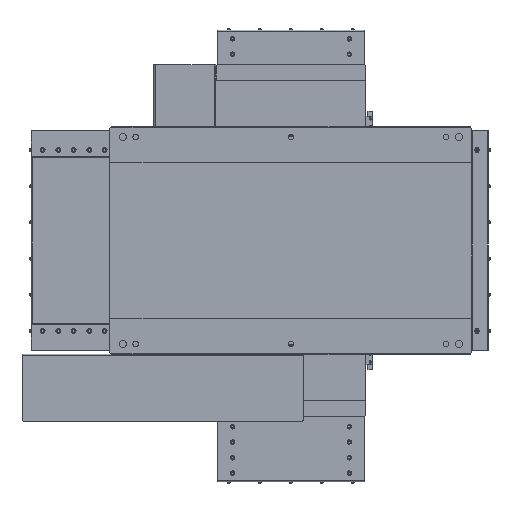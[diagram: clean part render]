
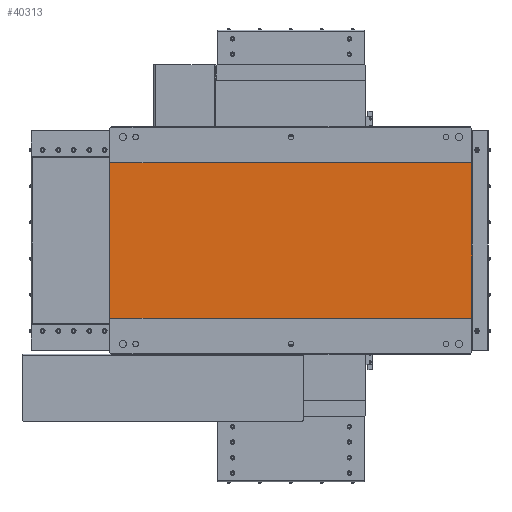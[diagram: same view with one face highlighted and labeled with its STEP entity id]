
A CAD part, front view. The second image highlights one B-rep face of the part: STEP entity #40313.
In plain terms, the highlighted planar face has unit normal (0, -1, 0).
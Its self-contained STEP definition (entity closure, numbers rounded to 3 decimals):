
#3547 = EDGE_CURVE ( 'NONE', #24531, #65417, #4279, .T. ) ;
#4279 = LINE ( 'NONE', #29743, #43019 ) ;
#4642 = DIRECTION ( 'NONE',  ( 0., 0., 1. ) ) ;
#7526 = VECTOR ( 'NONE', #85087, 1000. ) ;
#8333 = VECTOR ( 'NONE', #26584, 1000. ) ;
#15492 = FACE_OUTER_BOUND ( 'NONE', #39373, .T. ) ;
#16662 = CARTESIAN_POINT ( 'NONE',  ( 350., 1., -150. ) ) ;
#19337 = EDGE_CURVE ( 'NONE', #58980, #34804, #37764, .T. ) ;
#19705 = CARTESIAN_POINT ( 'NONE',  ( -350., 1., 150. ) ) ;
#24531 = VERTEX_POINT ( 'NONE', #76028 ) ;
#26584 = DIRECTION ( 'NONE',  ( 0., 0., 1. ) ) ;
#29743 = CARTESIAN_POINT ( 'NONE',  ( -350., 1., -150. ) ) ;
#33223 = DIRECTION ( 'NONE',  ( 0., 1., 0. ) ) ;
#34804 = VERTEX_POINT ( 'NONE', #57719 ) ;
#35175 = CARTESIAN_POINT ( 'NONE',  ( -350., 1., -150. ) ) ;
#37764 = LINE ( 'NONE', #16662, #8333 ) ;
#37872 = DIRECTION ( 'NONE',  ( 1., 0., 0. ) ) ;
#39373 = EDGE_LOOP ( 'NONE', ( #89295, #45250, #76066, #46171 ) ) ;
#39748 = DIRECTION ( 'NONE',  ( 0., 0., 1. ) ) ;
#40313 = ADVANCED_FACE ( 'NONE', ( #15492 ), #122268, .F. ) ;
#43019 = VECTOR ( 'NONE', #39748, 1000. ) ;
#45250 = ORIENTED_EDGE ( 'NONE', *, *, #75373, .F. ) ;
#46171 = ORIENTED_EDGE ( 'NONE', *, *, #77017, .T. ) ;
#50391 = LINE ( 'NONE', #67002, #79937 ) ;
#57719 = CARTESIAN_POINT ( 'NONE',  ( 350., 1., 150. ) ) ;
#58980 = VERTEX_POINT ( 'NONE', #108116 ) ;
#62843 = CARTESIAN_POINT ( 'NONE',  ( -350., 1., -150. ) ) ;
#65417 = VERTEX_POINT ( 'NONE', #19705 ) ;
#67002 = CARTESIAN_POINT ( 'NONE',  ( -350., 1., 150. ) ) ;
#75373 = EDGE_CURVE ( 'NONE', #65417, #34804, #50391, .T. ) ;
#76028 = CARTESIAN_POINT ( 'NONE',  ( -350., 1., -150. ) ) ;
#76066 = ORIENTED_EDGE ( 'NONE', *, *, #3547, .F. ) ;
#77017 = EDGE_CURVE ( 'NONE', #24531, #58980, #85037, .T. ) ;
#79937 = VECTOR ( 'NONE', #37872, 1000. ) ;
#85037 = LINE ( 'NONE', #35175, #7526 ) ;
#85087 = DIRECTION ( 'NONE',  ( 1., 0., 0. ) ) ;
#89295 = ORIENTED_EDGE ( 'NONE', *, *, #19337, .T. ) ;
#108116 = CARTESIAN_POINT ( 'NONE',  ( 350., 1., -150. ) ) ;
#122268 = PLANE ( 'NONE',  #124597 ) ;
#124597 = AXIS2_PLACEMENT_3D ( 'NONE', #62843, #33223, #4642 ) ;
